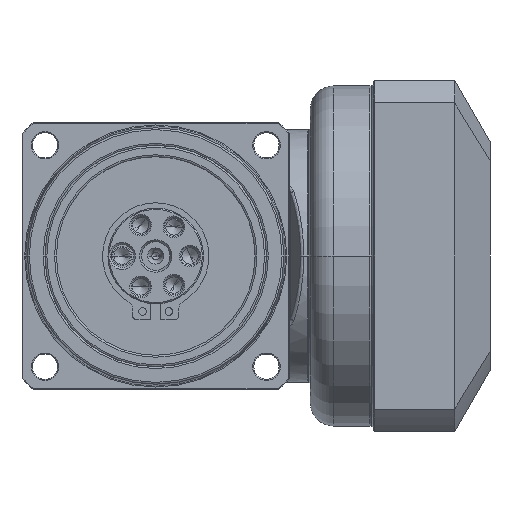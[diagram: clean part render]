
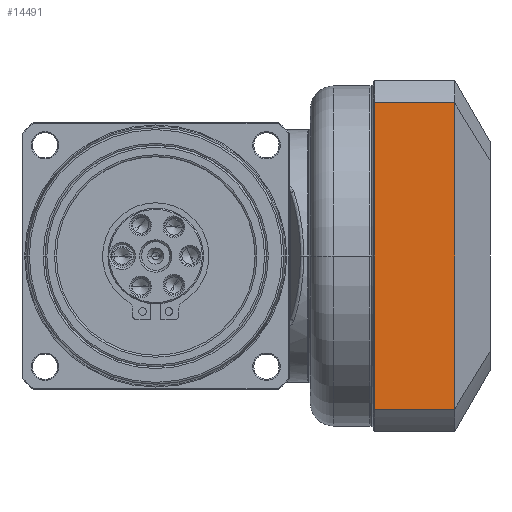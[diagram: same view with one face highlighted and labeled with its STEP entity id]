
A CAD part, left-side view. The second image highlights one B-rep face of the part: STEP entity #14491.
In plain terms, the highlighted planar face has unit normal (-1, 0, 0) as drawn and (0, -1, 0) by its records, which use the part's own axes.
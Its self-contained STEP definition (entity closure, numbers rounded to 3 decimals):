
#13306=CARTESIAN_POINT('',(40.062,-46.,23.762));
#13315=DIRECTION('',(1.,0.,0.));
#13316=VECTOR('',#13315,80.125);
#13317=CARTESIAN_POINT('',(-40.062,-46.,23.762));
#13318=LINE('',#13317,#13316);
#13319=DIRECTION('',(0.,0.,1.));
#13320=VECTOR('',#13319,20.962);
#13321=CARTESIAN_POINT('',(40.062,-46.,
2.8));
#13322=LINE('',#13321,#13320);
#13323=DIRECTION('',(1.,0.,0.));
#13324=VECTOR('',#13323,80.125);
#13325=CARTESIAN_POINT('',(-40.062,-46.,
2.8));
#13326=LINE('',#13325,#13324);
#13327=DIRECTION('',(0.,0.,1.));
#13328=VECTOR('',#13327,20.962);
#13329=CARTESIAN_POINT('',(-40.062,-46.,
2.8));
#13330=LINE('',#13329,#13328);
#13763=CARTESIAN_POINT('',(-40.062,-46.,2.8));
#13765=VERTEX_POINT('',#13763);
#13768=CARTESIAN_POINT('',(40.062,-46.,
2.8));
#13769=VERTEX_POINT('',#13768);
#13815=CARTESIAN_POINT('',(-40.062,-46.,23.762));
#13817=VERTEX_POINT('',#13815);
#13825=VERTEX_POINT('',#13306);
#14477=CARTESIAN_POINT('',(-46.,-46.,0.));
#14478=DIRECTION('',(0.,-1.,0.));
#14479=DIRECTION('',(1.,0.,0.));
#14480=AXIS2_PLACEMENT_3D('',#14477,#14478,#14479);
#14481=PLANE('',#14480);
#14482=ORIENTED_EDGE('',*,*,#14470,.T.);
#14484=ORIENTED_EDGE('',*,*,#14483,.F.);
#14486=ORIENTED_EDGE('',*,*,#14485,.F.);
#14488=ORIENTED_EDGE('',*,*,#14487,.T.);
#14489=EDGE_LOOP('',(#14482,#14484,#14486,#14488));
#14490=FACE_OUTER_BOUND('',#14489,.F.);
#14491=ADVANCED_FACE('',(#14490),#14481,.T.);
#14470=EDGE_CURVE('',#13817,#13825,#13318,.T.);
#14483=EDGE_CURVE('',#13769,#13825,#13322,.T.);
#14485=EDGE_CURVE('',#13765,#13769,#13326,.T.);
#14487=EDGE_CURVE('',#13765,#13817,#13330,.T.);
